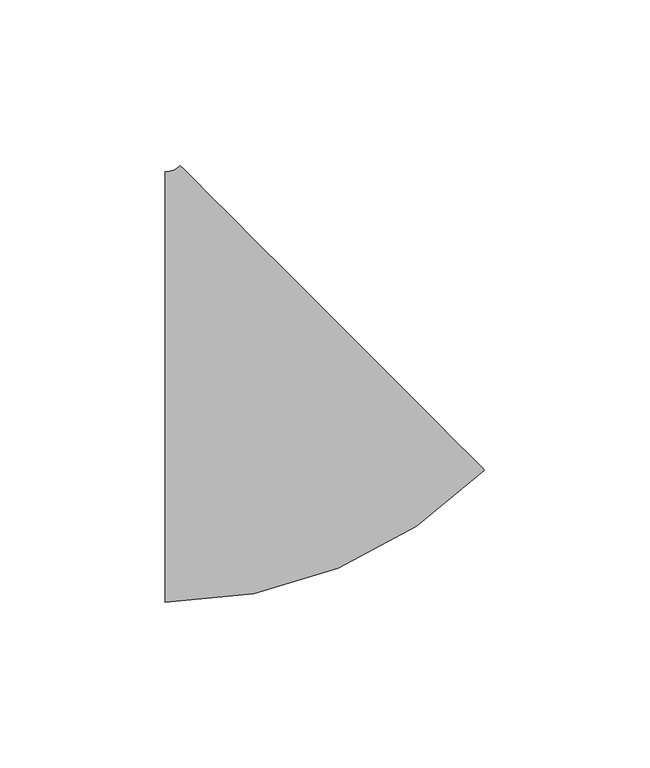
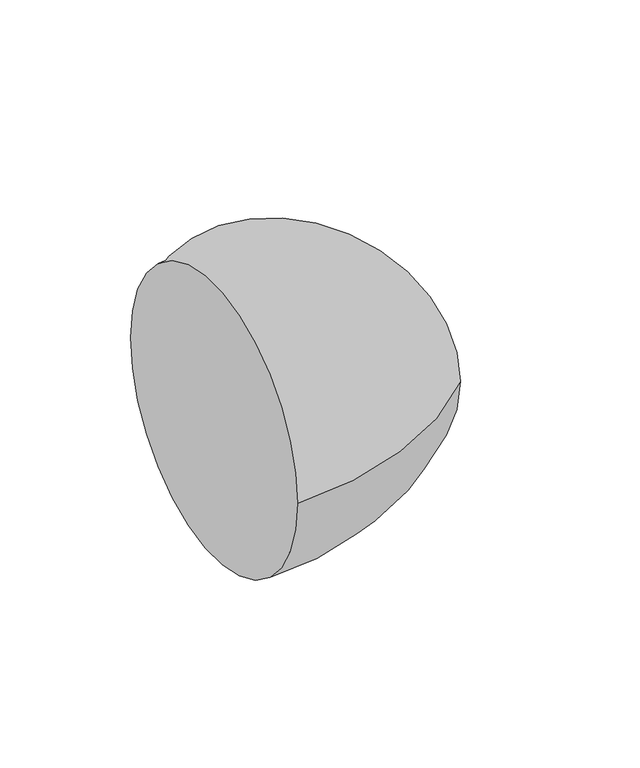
"""IFC4 building model written with IfcOpenShell, lengths in millimetres: pipe fitting geometry, M_Codo - Genérico : Estándar."""

from ifc_helpers import new_model, si_unit, point, frame, origin, place, context, project, spatial, circle_curve, ellipse_curve, trimmed, source, transform, mapped, element, save
from ifc_brep_helpers import plane_surface, revolved_surface, advanced_brep


def pipe_fitting_e432b561(model_context):
    return source(origin(), model_context, "Body", "AdvancedBrep", [
        advanced_brep(
        [(-29.5905758, -65.0875, 0.0), (-29.5905758, 65.0875, 0.0), (66.9476261, -25.0998047, 0.0), (-25.1004269, 66.9473928, 0.0)],
        [
            (0, 1, circle_curve(frame((-29.5905758, 0.0, 0.0), z_axis=(-1.0, 0.0, 0.0), x_axis=(0.0, 1.0, 0.0)), 65.0875)),
            (1, 0, circle_curve(frame((-29.5905758, 0.0, 0.0), z_axis=(-1.0, 0.0, 0.0), x_axis=(0.0, 1.0, 0.0)), 65.0875)),
            (2, 3, circle_curve(frame((20.9235996, 20.9237941, 0.0), z_axis=(0.7071034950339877, 0.7071100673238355, 0.0), x_axis=(-0.7071100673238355, 0.7071034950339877, 0.0)), 65.0875)),
            (3, 2, circle_curve(frame((20.9235996, 20.9237941, 0.0), z_axis=(0.7071034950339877, 0.7071100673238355, 0.0), x_axis=(-0.7071100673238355, 0.7071034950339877, 0.0)), 65.0875)),
            (3, 1, circle_curve(frame((-29.5905758, 71.4375, 0.0), z_axis=(0.0, 0.0, -1.0), x_axis=(0.0, -1.0, 0.0)), 6.35)),
            (0, 2, circle_curve(frame((-29.5905758, 71.4375, 0.0), z_axis=(0.0, 0.0, 1.0), x_axis=(0.0, -1.0, 0.0)), 136.525)),
        ],
        [
            plane_surface(frame((-29.5905758, 0.0, 0.0), z_axis=(-1.0, 0.0, 0.0), x_axis=(0.0, 0.0, 1.0))),
            plane_surface(frame((20.9235996, 20.9237941, 0.0), z_axis=(0.7071034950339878, 0.7071100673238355, 0.0), x_axis=(0.0, 0.0, 1.0))),
            revolved_surface(trimmed(ellipse_curve(frame((-29.5905758, 0.0, 0.0), z_axis=(-1.0, 0.0, 0.0), x_axis=(0.0, 1.0, 0.0)), 65.0875, 65.0875), [point((-29.5905758, -65.0875, 0.0))], [point((-29.5905758, 65.0875, 0.0))], True, "CARTESIAN"), (-29.5905758, 71.4375, 0.0), (0.0, 0.0, 1.0)),
            revolved_surface(trimmed(ellipse_curve(frame((-29.5905758, 0.0, 0.0), z_axis=(-1.0, 0.0, 0.0), x_axis=(0.0, 1.0, 0.0)), 65.0875, 65.0875), [point((-29.5905758, 65.0875, 0.0))], [point((-29.5905758, -65.0875, 0.0))], True, "CARTESIAN"), (-29.5905758, 71.4375, 0.0), (0.0, 0.0, 1.0)),
        ],
        [
            (0, [[1, 2]]),
            (1, [[3, 4]]),
            (2, [[5, -1, 6, -4]]),
            (3, [[-6, -2, -5, -3]]),
        ],
    ),
    ])


if __name__ == "__main__":
    model = new_model("IFC4")
    model_context = context("Model", 3, world=origin())
    ifc_project = project(units=[si_unit("LENGTHUNIT", "METRE", prefix="MILLI")], contexts=[model_context])
    site = spatial("IfcSite", under=ifc_project)
    building = spatial("IfcBuilding", under=site)
    placement = place(None, origin())
    pipe_fitting_shape = pipe_fitting_e432b561(model_context)
    element("IfcPipeFitting", 1, ObjectType="M_Codo - Genérico : Estándar", at=placement, inside=building, context=model_context, shape_type="MappedRepresentation", body=[
        mapped(pipe_fitting_shape, transform((0.0, 0.0, 0.0), x_axis=(1.0, 0.0, 0.0), y_axis=(0.0, 1.0, 0.0), z_axis=(0.0, 0.0, 1.0))),
    ])
    save(model, "model.ifc")
